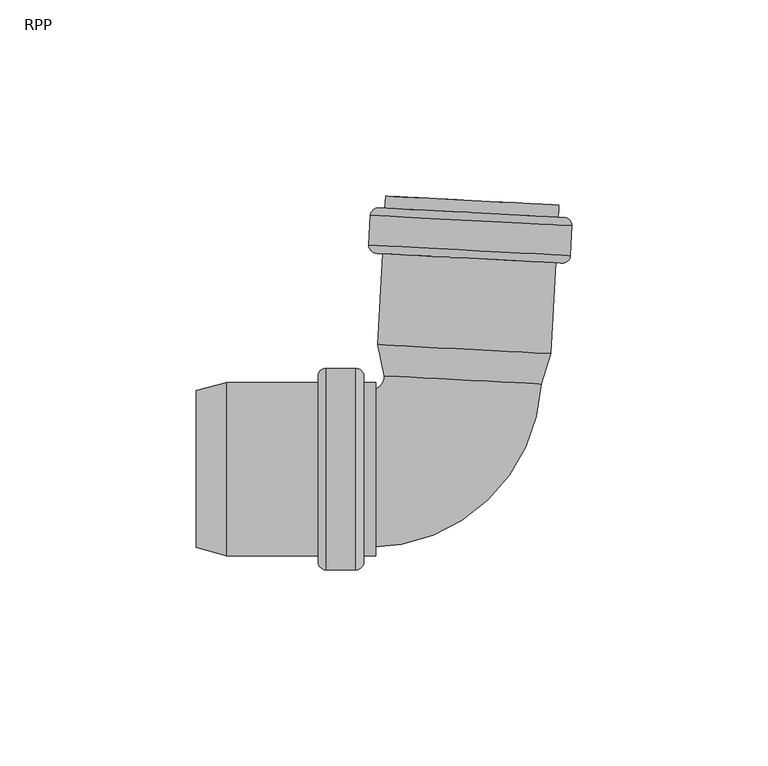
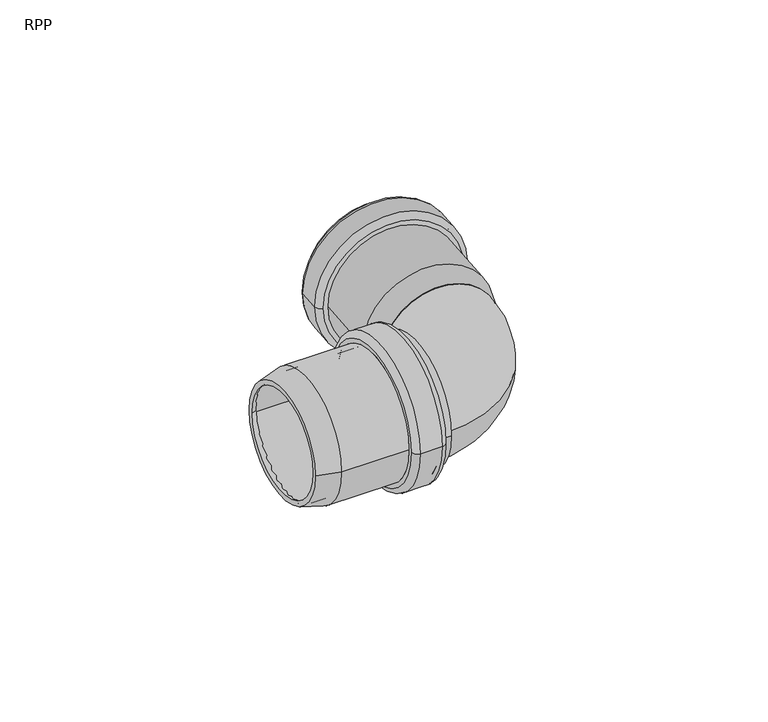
"""IFC4 building model written with IfcOpenShell, lengths in millimetres: pipe fitting geometry, RAUPIANO PLUS Bend : RPP."""

from ifc_helpers import new_model, si_unit, point, frame, origin, place, context, project, spatial, polyline, circle_curve, ellipse_curve, trimmed, source, transform, mapped, element, save
from ifc_brep_helpers import plane_surface, cylinder_surface, revolved_surface, advanced_brep


def rpp_43926e8d(model_context):
    return source(origin(), model_context, "Body", "AdvancedBrep", [
        advanced_brep(
        [(-33.8751496, -20.3, 0.0), (-33.8751496, 20.3, 0.0), (-58.7008684, 20.3, 0.0), (-58.7008684, -20.3, 0.0), (-33.3751496, -23.9, 0.0), (-33.3751496, 23.9, 0.0), (-33.8751496, 23.4, 0.0), (-33.8751496, -23.4, 0.0), (-26.3751496, -23.9, 0.0), (-26.3751496, 23.9, 0.0), (-25.8751496, -23.4, 0.0), (-25.8751496, 23.4, 0.0), (-20.9751496, -20.3, 0.0), (-20.9751496, 20.3, 0.0), (-25.8751496, 20.3, 0.0), (-25.8751496, -20.3, 0.0), (-24.0751496, -22.1, 0.0), (-24.0751496, 22.1, 0.0), (-20.9751496, 22.1, 0.0), (-20.9751496, -22.1, 0.0), (-26.0751496, -25.7, 0.0), (-26.0751496, 25.7, 0.0), (-24.0751496, 23.7, 0.0), (-24.0751496, -23.7, 0.0), (-33.6751496, -25.7, 0.0), (-33.6751496, 25.7, 0.0), (-35.6751496, -23.7, 0.0), (-35.6751496, 23.7, 0.0), (-58.9378429, -22.1, 0.0), (-58.9378429, 22.1, 0.0), (-35.6751496, 22.1, 0.0), (-35.6751496, -22.1, 0.0), (-66.7751496, -20.0, 0.0), (-66.7751496, 20.0, 0.0), (-66.7751496, 18.1365029, 0.0), (-66.7751496, -18.1365029, 0.0)],
        [
            (0, 1, circle_curve(frame((-33.8751496, 0.0, 0.0), z_axis=(1.0, 0.0, 0.0), x_axis=(0.0, 1.0, 0.0)), 20.3)),
            (1, 2),
            (2, 3, circle_curve(frame((-58.7008684, 0.0, 0.0), z_axis=(-1.0, 0.0, 0.0), x_axis=(0.0, 1.0, 0.0)), 20.3)),
            (3, 0),
            (4, 5, circle_curve(frame((-33.3751496, 0.0, 0.0), z_axis=(1.0, 0.0, 0.0), x_axis=(0.0, 1.0, 0.0)), 23.9)),
            (5, 6, circle_curve(frame((-33.3751496, 23.4, 0.0), z_axis=(0.0, 0.0, 1.0), x_axis=(0.0, -1.0, 0.0)), 0.5)),
            (6, 7, circle_curve(frame((-33.8751496, 0.0, 0.0), z_axis=(-1.0, 0.0, 0.0), x_axis=(0.0, 1.0, 0.0)), 23.4)),
            (7, 4, circle_curve(frame((-33.3751496, -23.4, 0.0), z_axis=(0.0, 0.0, 1.0), x_axis=(0.0, 1.0, 0.0)), 0.5)),
            (8, 9, circle_curve(frame((-26.3751496, 0.0, 0.0), z_axis=(1.0, 0.0, 0.0), x_axis=(0.0, 1.0, 0.0)), 23.9)),
            (9, 5),
            (4, 8),
            (10, 11, circle_curve(frame((-25.8751496, 0.0, 0.0), z_axis=(1.0, 0.0, 0.0), x_axis=(0.0, 1.0, 0.0)), 23.4)),
            (11, 9, circle_curve(frame((-26.3751496, 23.4, 0.0), z_axis=(0.0, 0.0, 1.0), x_axis=(0.0, -1.0, 0.0)), 0.5)),
            (8, 10, circle_curve(frame((-26.3751496, -23.4, 0.0), z_axis=(0.0, 0.0, 1.0), x_axis=(0.0, 1.0, 0.0)), 0.5)),
            (12, 13, circle_curve(frame((-20.9751496, 0.0, 0.0), z_axis=(1.0, 0.0, 0.0), x_axis=(0.0, 1.0, 0.0)), 20.3)),
            (13, 14),
            (14, 15, circle_curve(frame((-25.8751496, 0.0, 0.0), z_axis=(-1.0, 0.0, 0.0), x_axis=(0.0, 1.0, 0.0)), 20.3)),
            (15, 12),
            (16, 17, circle_curve(frame((-24.0751496, 0.0, 0.0), z_axis=(1.0, 0.0, 0.0), x_axis=(0.0, 1.0, 0.0)), 22.1)),
            (17, 18),
            (18, 19, circle_curve(frame((-20.9751496, 0.0, 0.0), z_axis=(-1.0, 0.0, 0.0), x_axis=(0.0, 1.0, 0.0)), 22.1)),
            (19, 16),
            (20, 21, circle_curve(frame((-26.0751496, 0.0, 0.0), z_axis=(1.0, 0.0, 0.0), x_axis=(0.0, 1.0, 0.0)), 25.7)),
            (21, 22, circle_curve(frame((-26.0751496, 23.7, 0.0), z_axis=(0.0, 0.0, -1.0), x_axis=(0.0, -1.0, 0.0)), 2.0)),
            (22, 23, circle_curve(frame((-24.0751496, 0.0, 0.0), z_axis=(-1.0, 0.0, 0.0), x_axis=(0.0, 1.0, 0.0)), 23.7)),
            (23, 20, circle_curve(frame((-26.0751496, -23.7, 0.0), z_axis=(0.0, 0.0, -1.0), x_axis=(0.0, 1.0, 0.0)), 2.0)),
            (24, 25, circle_curve(frame((-33.6751496, 0.0, 0.0), z_axis=(1.0, 0.0, 0.0), x_axis=(0.0, 1.0, 0.0)), 25.7)),
            (25, 21),
            (20, 24),
            (26, 27, circle_curve(frame((-35.6751496, 0.0, 0.0), z_axis=(1.0, 0.0, 0.0), x_axis=(0.0, 1.0, 0.0)), 23.7)),
            (27, 25, circle_curve(frame((-33.6751496, 23.7, 0.0), z_axis=(0.0, 0.0, -1.0), x_axis=(0.0, -1.0, 0.0)), 2.0)),
            (24, 26, circle_curve(frame((-33.6751496, -23.7, 0.0), z_axis=(0.0, 0.0, -1.0), x_axis=(0.0, 1.0, 0.0)), 2.0)),
            (28, 29, circle_curve(frame((-58.9378429, 0.0, 0.0), z_axis=(1.0, 0.0, 0.0), x_axis=(0.0, 1.0, 0.0)), 22.1)),
            (29, 30),
            (30, 31, circle_curve(frame((-35.6751496, 0.0, 0.0), z_axis=(-1.0, 0.0, 0.0), x_axis=(0.0, 1.0, 0.0)), 22.1)),
            (31, 28),
            (32, 33, circle_curve(frame((-66.7751496, 0.0, 0.0), z_axis=(1.0, 0.0, 0.0), x_axis=(0.0, 1.0, 0.0)), 20.0)),
            (33, 29),
            (28, 32),
            (2, 34),
            (34, 35, circle_curve(frame((-66.7751496, 0.0, 0.0), z_axis=(-1.0, 0.0, 0.0), x_axis=(0.0, 1.0, 0.0)), 18.1365029)),
            (35, 3),
            (1, 0, circle_curve(frame((-33.8751496, 0.0, 0.0), z_axis=(1.0, 0.0, 0.0), x_axis=(0.0, -1.0, 0.0)), 20.3)),
            (3, 2, circle_curve(frame((-58.7008684, 0.0, 0.0), z_axis=(-1.0, 0.0, 0.0), x_axis=(0.0, -1.0, 0.0)), 20.3)),
            (6, 7, circle_curve(frame((-33.8751496, 0.0, 0.0), z_axis=(1.0, 0.0, 0.0), x_axis=(0.0, -1.0, 0.0)), 23.4)),
            (5, 4, circle_curve(frame((-33.3751496, 0.0, 0.0), z_axis=(1.0, 0.0, 0.0), x_axis=(0.0, -1.0, 0.0)), 23.9)),
            (9, 8, circle_curve(frame((-26.3751496, 0.0, 0.0), z_axis=(1.0, 0.0, 0.0), x_axis=(0.0, -1.0, 0.0)), 23.9)),
            (11, 10, circle_curve(frame((-25.8751496, 0.0, 0.0), z_axis=(1.0, 0.0, 0.0), x_axis=(0.0, -1.0, 0.0)), 23.4)),
            (14, 15, circle_curve(frame((-25.8751496, 0.0, 0.0), z_axis=(1.0, 0.0, 0.0), x_axis=(0.0, -1.0, 0.0)), 20.3)),
            (13, 12, circle_curve(frame((-20.9751496, 0.0, 0.0), z_axis=(1.0, 0.0, 0.0), x_axis=(0.0, -1.0, 0.0)), 20.3)),
            (18, 19, circle_curve(frame((-20.9751496, 0.0, 0.0), z_axis=(1.0, 0.0, 0.0), x_axis=(0.0, -1.0, 0.0)), 22.1)),
            (17, 16, circle_curve(frame((-24.0751496, 0.0, 0.0), z_axis=(1.0, 0.0, 0.0), x_axis=(0.0, -1.0, 0.0)), 22.1)),
            (22, 23, circle_curve(frame((-24.0751496, 0.0, 0.0), z_axis=(1.0, 0.0, 0.0), x_axis=(0.0, -1.0, 0.0)), 23.7)),
            (21, 20, circle_curve(frame((-26.0751496, 0.0, 0.0), z_axis=(1.0, 0.0, 0.0), x_axis=(0.0, -1.0, 0.0)), 25.7)),
            (25, 24, circle_curve(frame((-33.6751496, 0.0, 0.0), z_axis=(1.0, 0.0, 0.0), x_axis=(0.0, -1.0, 0.0)), 25.7)),
            (27, 26, circle_curve(frame((-35.6751496, 0.0, 0.0), z_axis=(1.0, 0.0, 0.0), x_axis=(0.0, -1.0, 0.0)), 23.7)),
            (30, 31, circle_curve(frame((-35.6751496, 0.0, 0.0), z_axis=(1.0, 0.0, 0.0), x_axis=(0.0, -1.0, 0.0)), 22.1)),
            (29, 28, circle_curve(frame((-58.9378429, 0.0, 0.0), z_axis=(1.0, 0.0, 0.0), x_axis=(0.0, -1.0, 0.0)), 22.1)),
            (33, 32, circle_curve(frame((-66.7751496, 0.0, 0.0), z_axis=(1.0, 0.0, 0.0), x_axis=(0.0, -1.0, 0.0)), 20.0)),
            (34, 35, circle_curve(frame((-66.7751496, 0.0, 0.0), z_axis=(1.0, 0.0, 0.0), x_axis=(0.0, -1.0, 0.0)), 18.1365029)),
        ],
        [
            revolved_surface(polyline([(-58.7008684, 20.3, 0.0), (-33.8751496, 20.3, 0.0)]), (-66.7751496, 0.0, 0.0), (-1.0, 0.0, 0.0)),
            revolved_surface(trimmed(ellipse_curve(frame((-33.3751496, 23.4, 0.0), z_axis=(0.0, 0.0, -1.0), x_axis=(0.0, -1.0, 0.0)), 0.5, 0.5), [point((-33.8751496, 23.4, 0.0))], [point((-33.3751496, 23.9, 0.0))], True, "CARTESIAN"), (-66.7751496, 0.0, 0.0), (-1.0, 0.0, 0.0)),
            revolved_surface(polyline([(-33.3751496, 23.9, 0.0), (-26.3751496, 23.9, 0.0)]), (-66.7751496, 0.0, 0.0), (-1.0, 0.0, 0.0)),
            revolved_surface(trimmed(ellipse_curve(frame((-26.3751496, 23.4, 0.0), z_axis=(0.0, 0.0, -1.0), x_axis=(0.0, -1.0, 0.0)), 0.5, 0.5), [point((-26.3751496, 23.9, 0.0))], [point((-25.8751496, 23.4, 0.0))], True, "CARTESIAN"), (-66.7751496, 0.0, 0.0), (-1.0, 0.0, 0.0)),
            revolved_surface(polyline([(-25.8751496, 20.3, 0.0), (-20.9751496, 20.3, 0.0)]), (-66.7751496, 0.0, 0.0), (-1.0, 0.0, 0.0)),
            cylinder_surface(frame((-66.7751496, 0.0, 0.0), z_axis=(-1.0, 0.0, 0.0), x_axis=(0.0, 1.0, 0.0)), 22.1),
            revolved_surface(trimmed(ellipse_curve(frame((-26.0751496, 23.7, 0.0), z_axis=(0.0, 0.0, 1.0), x_axis=(0.0, -1.0, 0.0)), 2.0, 2.0), [point((-24.0751496, 23.7, 0.0))], [point((-26.0751496, 25.7, 0.0))], True, "CARTESIAN"), (-66.7751496, 0.0, 0.0), (-1.0, 0.0, 0.0)),
            cylinder_surface(frame((-66.7751496, 0.0, 0.0), z_axis=(-1.0, 0.0, 0.0), x_axis=(0.0, 1.0, 0.0)), 25.7),
            revolved_surface(trimmed(ellipse_curve(frame((-33.6751496, 23.7, 0.0), z_axis=(0.0, 0.0, 1.0), x_axis=(0.0, -1.0, 0.0)), 2.0, 2.0), [point((-33.6751496, 25.7, 0.0))], [point((-35.6751496, 23.7, 0.0))], True, "CARTESIAN"), (-66.7751496, 0.0, 0.0), (-1.0, 0.0, 0.0)),
            revolved_surface(polyline([(-58.9378429, 22.1, 0.0), (-66.7751496, 20.0, 0.0)]), (-66.7751496, 0.0, 0.0), (-1.0, 0.0, 0.0)),
            revolved_surface(polyline([(-66.7751496, 18.1365029, 0.0), (-58.7008684, 20.3, 0.0)]), (-66.7751496, 0.0, 0.0), (-1.0, 0.0, 0.0)),
            revolved_surface(polyline([(-58.7008684, -20.3, 0.0), (-33.8751496, -20.3, 0.0)]), (-66.7751496, 0.0, 0.0), (-1.0, 0.0, 0.0)),
            plane_surface(frame((-33.8751496, 0.0, 0.0), z_axis=(1.0, 0.0, 0.0), x_axis=(0.0, -1.0, 0.0))),
            revolved_surface(trimmed(ellipse_curve(frame((-33.3751496, -23.4, 0.0), z_axis=(0.0, 0.0, 1.0), x_axis=(0.0, 1.0, 0.0)), 0.5, 0.5), [point((-33.8751496, -23.4, 0.0))], [point((-33.3751496, -23.9, 0.0))], True, "CARTESIAN"), (-66.7751496, 0.0, 0.0), (-1.0, 0.0, 0.0)),
            revolved_surface(polyline([(-33.3751496, -23.9, 0.0), (-26.3751496, -23.9, 0.0)]), (-66.7751496, 0.0, 0.0), (-1.0, 0.0, 0.0)),
            revolved_surface(trimmed(ellipse_curve(frame((-26.3751496, -23.4, 0.0), z_axis=(0.0, 0.0, 1.0), x_axis=(0.0, 1.0, 0.0)), 0.5, 0.5), [point((-26.3751496, -23.9, 0.0))], [point((-25.8751496, -23.4, 0.0))], True, "CARTESIAN"), (-66.7751496, 0.0, 0.0), (-1.0, 0.0, 0.0)),
            plane_surface(frame((-25.8751496, 0.0, 0.0), z_axis=(-1.0, 0.0, 0.0), x_axis=(0.0, -1.0, 0.0))),
            revolved_surface(polyline([(-25.8751496, -20.3, 0.0), (-20.9751496, -20.3, 0.0)]), (-66.7751496, 0.0, 0.0), (-1.0, 0.0, 0.0)),
            plane_surface(frame((-20.9751496, 0.0, 0.0), z_axis=(1.0, 0.0, 0.0), x_axis=(0.0, -1.0, 0.0))),
            cylinder_surface(frame((-66.7751496, 0.0, 0.0), z_axis=(-1.0, 0.0, 0.0), x_axis=(0.0, -1.0, 0.0)), 22.1),
            plane_surface(frame((-24.0751496, 0.0, 0.0), z_axis=(1.0, 0.0, 0.0), x_axis=(0.0, -1.0, 0.0))),
            revolved_surface(trimmed(ellipse_curve(frame((-26.0751496, -23.7, 0.0), z_axis=(0.0, 0.0, -1.0), x_axis=(0.0, 1.0, 0.0)), 2.0, 2.0), [point((-24.0751496, -23.7, 0.0))], [point((-26.0751496, -25.7, 0.0))], True, "CARTESIAN"), (-66.7751496, 0.0, 0.0), (-1.0, 0.0, 0.0)),
            cylinder_surface(frame((-66.7751496, 0.0, 0.0), z_axis=(-1.0, 0.0, 0.0), x_axis=(0.0, -1.0, 0.0)), 25.7),
            revolved_surface(trimmed(ellipse_curve(frame((-33.6751496, -23.7, 0.0), z_axis=(0.0, 0.0, -1.0), x_axis=(0.0, 1.0, 0.0)), 2.0, 2.0), [point((-33.6751496, -25.7, 0.0))], [point((-35.6751496, -23.7, 0.0))], True, "CARTESIAN"), (-66.7751496, 0.0, 0.0), (-1.0, 0.0, 0.0)),
            plane_surface(frame((-35.6751496, 0.0, 0.0), z_axis=(-1.0, 0.0, 0.0), x_axis=(0.0, -1.0, 0.0))),
            revolved_surface(polyline([(-58.9378429, -22.1, 0.0), (-66.7751496, -20.0, 0.0)]), (-66.7751496, 0.0, 0.0), (-1.0, 0.0, 0.0)),
            plane_surface(frame((-66.7751496, 0.0, 0.0), z_axis=(-1.0, 0.0, 0.0), x_axis=(0.0, -1.0, 0.0))),
            revolved_surface(polyline([(-66.7751496, -18.1365029, 0.0), (-58.7008684, -20.3, 0.0)]), (-66.7751496, 0.0, 0.0), (-1.0, 0.0, 0.0)),
        ],
        [
            (0, [[1, 2, 3, 4]]),
            (1, [[5, 6, 7, 8]]),
            (2, [[9, 10, -5, 11]]),
            (3, [[12, 13, -9, 14]]),
            (4, [[15, 16, 17, 18]]),
            (5, [[19, 20, 21, 22]]),
            (6, [[23, 24, 25, 26]]),
            (7, [[27, 28, -23, 29]]),
            (8, [[30, 31, -27, 32]]),
            (5, [[33, 34, 35, 36]]),
            (9, [[37, 38, -33, 39]]),
            (10, [[-3, 40, 41, 42]]),
            (11, [[43, -4, 44, -2]]),
            (12, [[45, -7], [-43, -1]]),
            (13, [[46, -8, -45, -6]]),
            (14, [[47, -11, -46, -10]]),
            (15, [[48, -14, -47, -13]]),
            (16, [[-48, -12], [49, -17]]),
            (17, [[50, -18, -49, -16]]),
            (18, [[51, -21], [-50, -15]]),
            (19, [[52, -22, -51, -20]]),
            (20, [[53, -25], [-52, -19]]),
            (21, [[54, -26, -53, -24]]),
            (22, [[55, -29, -54, -28]]),
            (23, [[56, -32, -55, -31]]),
            (24, [[-56, -30], [57, -35]]),
            (19, [[58, -36, -57, -34]]),
            (25, [[59, -39, -58, -38]]),
            (26, [[-59, -37], [60, -41]]),
            (27, [[-44, -42, -60, -40]]),
        ],
    ),
        advanced_brep(
        [(19.3036067, 21.7947458, 0.0), (-16.9196882, 23.6931283, 0.0), (-18.6576451, 31.8695726, 0.0), (21.886714, 29.7447328, 0.0), (23.6718449, 29.4138784, 0.0), (-20.4675805, 31.7271276, 0.0), (-18.7806315, 23.7906562, 0.0), (21.1645499, 21.6972179, 0.0), (24.8893202, 52.6446909, 0.0), (-19.2501052, 54.9579402, 0.0), (28.9868117, 62.043125, 0.0), (-22.3427464, 64.7331932, 0.0), (-22.7404997, 57.1436087, 0.0), (28.5890584, 54.4535406, 0.0), (25.6586587, 67.3245451, 0.0), (-18.4807667, 69.6377944, 0.0), (-18.6430082, 66.5420428, 0.0), (25.4964173, 64.2287936, 0.0), (23.6046794, 62.5254651, 0.0), (-16.9396797, 64.6503049, 0.0), (-16.6832335, 69.5435897, 0.0), (23.8611256, 67.4187498, 0.0), (26.8072261, 54.8473342, 0.0), (-20.9272657, 57.3489929, 0.0), (-20.560914, 64.3393996, 0.0), (27.1735777, 61.8377409, 0.0), (-17.3583674, 56.6612687, 0.0), (23.1859917, 54.5364288, 0.0), (-20.8479125, 55.0416777, 0.0), (26.4871274, 52.5609534, 0.0), (27.0942245, 64.145056, 0.0), (-20.2408154, 66.6257803, 0.0), (-20.0354313, 64.8125464, 0.0), (26.700431, 62.3632236, 0.0), (26.2817433, 54.3741874, 0.0), (-20.4541189, 56.8235101, 0.0)],
        [
            (0, 1, circle_curve(frame((1.1919592, 22.7439371, 0.0), z_axis=(-0.05233595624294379, -0.9986295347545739, 0.0), x_axis=(-0.9986295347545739, 0.05233595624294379, 0.0)), 18.1365029)),
            (1, 2),
            (2, 3, circle_curve(frame((1.6145345, 30.8071527, 0.0), z_axis=(0.05233595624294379, 0.9986295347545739, 0.0), x_axis=(-0.9986295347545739, 0.05233595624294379, 0.0)), 20.3)),
            (3, 0),
            (4, 5, circle_curve(frame((1.6021322, 30.570503, 0.0), z_axis=(-0.05233595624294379, -0.9986295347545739, 0.0), x_axis=(-0.9986295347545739, 0.05233595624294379, 0.0)), 22.1)),
            (5, 6),
            (6, 7, circle_curve(frame((1.1919592, 22.7439371, 0.0), z_axis=(0.05233595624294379, 0.9986295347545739, 0.0), x_axis=(-0.9986295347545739, 0.05233595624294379, 0.0)), 20.0)),
            (7, 4),
            (8, 9, circle_curve(frame((2.8196075, 53.8013156, 0.0), z_axis=(-0.05233595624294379, -0.9986295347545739, 0.0), x_axis=(-0.9986295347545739, 0.05233595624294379, 0.0)), 22.1)),
            (9, 5),
            (4, 8),
            (10, 11, circle_curve(frame((3.3220327, 63.3881591, 0.0), z_axis=(-0.05233595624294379, -0.9986295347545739, 0.0), x_axis=(-0.9986295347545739, 0.05233595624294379, 0.0)), 25.7)),
            (11, 12),
            (12, 13, circle_curve(frame((2.9242794, 55.7985747, 0.0), z_axis=(0.05233595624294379, 0.9986295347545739, 0.0), x_axis=(-0.9986295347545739, 0.05233595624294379, 0.0)), 25.7)),
            (13, 10),
            (14, 15, circle_curve(frame((3.588946, 68.4811697, 0.0), z_axis=(-0.05233595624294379, -0.9986295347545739, 0.0), x_axis=(-0.9986295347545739, 0.05233595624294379, 0.0)), 22.1)),
            (15, 16),
            (16, 17, circle_curve(frame((3.4267046, 65.3854182, 0.0), z_axis=(0.05233595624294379, 0.9986295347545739, 0.0), x_axis=(-0.9986295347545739, 0.05233595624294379, 0.0)), 22.1)),
            (17, 14),
            (18, 19, circle_curve(frame((3.3324998, 63.587885, 0.0), z_axis=(-0.05233595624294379, -0.9986295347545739, 0.0), x_axis=(-0.9986295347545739, 0.05233595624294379, 0.0)), 20.3)),
            (19, 20),
            (20, 21, circle_curve(frame((3.588946, 68.4811697, 0.0), z_axis=(0.05233595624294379, 0.9986295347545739, 0.0), x_axis=(-0.9986295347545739, 0.05233595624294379, 0.0)), 20.3)),
            (21, 18),
            (22, 23, circle_curve(frame((2.9399802, 56.0981635, 0.0), z_axis=(-0.05233595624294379, -0.9986295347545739, 0.0), x_axis=(-0.9986295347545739, 0.05233595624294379, 0.0)), 23.9)),
            (23, 24),
            (24, 25, circle_curve(frame((3.3063319, 63.0885703, 0.0), z_axis=(0.05233595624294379, 0.9986295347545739, 0.0), x_axis=(-0.9986295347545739, 0.05233595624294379, 0.0)), 23.9)),
            (25, 22),
            (2, 26),
            (26, 27, circle_curve(frame((2.9138122, 55.5988487, 0.0), z_axis=(0.05233595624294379, 0.9986295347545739, 0.0), x_axis=(-0.9986295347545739, 0.05233595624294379, 0.0)), 20.3)),
            (27, 3),
            (1, 0, circle_curve(frame((1.1919592, 22.7439371, 0.0), z_axis=(-0.05233595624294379, -0.9986295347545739, 0.0), x_axis=(0.9986295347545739, -0.05233595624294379, 0.0)), 18.1365029)),
            (3, 2, circle_curve(frame((1.6145345, 30.8071527, 0.0), z_axis=(0.05233595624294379, 0.9986295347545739, 0.0), x_axis=(0.9986295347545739, -0.05233595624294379, 0.0)), 20.3)),
            (6, 7, circle_curve(frame((1.1919592, 22.7439371, 0.0), z_axis=(-0.05233595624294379, -0.9986295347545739, 0.0), x_axis=(0.9986295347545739, -0.05233595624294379, 0.0)), 20.0)),
            (5, 4, circle_curve(frame((1.6021322, 30.570503, 0.0), z_axis=(-0.05233595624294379, -0.9986295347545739, 0.0), x_axis=(0.9986295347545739, -0.05233595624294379, 0.0)), 22.1)),
            (9, 8, circle_curve(frame((2.8196075, 53.8013156, 0.0), z_axis=(-0.05233595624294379, -0.9986295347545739, 0.0), x_axis=(0.9986295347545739, -0.05233595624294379, 0.0)), 22.1)),
            (28, 29, circle_curve(frame((2.8196075, 53.8013156, 0.0), z_axis=(-0.05233595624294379, -0.9986295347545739, 0.0), x_axis=(0.9986295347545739, -0.05233595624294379, 0.0)), 23.7)),
            (29, 28, circle_curve(frame((2.8196075, 53.8013156, 0.0), z_axis=(-0.05233595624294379, -0.9986295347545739, 0.0), x_axis=(-0.9986295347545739, 0.05233595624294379, 0.0)), 23.7)),
            (11, 10, circle_curve(frame((3.3220327, 63.3881591, 0.0), z_axis=(-0.05233595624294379, -0.9986295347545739, 0.0), x_axis=(0.9986295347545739, -0.05233595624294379, 0.0)), 25.7)),
            (13, 12, circle_curve(frame((2.9242794, 55.7985747, 0.0), z_axis=(0.05233595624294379, 0.9986295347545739, 0.0), x_axis=(0.9986295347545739, -0.05233595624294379, 0.0)), 25.7)),
            (30, 31, circle_curve(frame((3.4267046, 65.3854182, 0.0), z_axis=(0.05233595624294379, 0.9986295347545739, 0.0), x_axis=(0.9986295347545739, -0.05233595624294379, 0.0)), 23.7)),
            (31, 30, circle_curve(frame((3.4267046, 65.3854182, 0.0), z_axis=(0.05233595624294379, 0.9986295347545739, 0.0), x_axis=(-0.9986295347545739, 0.05233595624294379, 0.0)), 23.7)),
            (16, 17, circle_curve(frame((3.4267046, 65.3854182, 0.0), z_axis=(-0.05233595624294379, -0.9986295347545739, 0.0), x_axis=(0.9986295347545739, -0.05233595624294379, 0.0)), 22.1)),
            (15, 14, circle_curve(frame((3.588946, 68.4811697, 0.0), z_axis=(-0.05233595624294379, -0.9986295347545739, 0.0), x_axis=(0.9986295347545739, -0.05233595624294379, 0.0)), 22.1)),
            (20, 21, circle_curve(frame((3.588946, 68.4811697, 0.0), z_axis=(-0.05233595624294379, -0.9986295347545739, 0.0), x_axis=(0.9986295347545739, -0.05233595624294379, 0.0)), 20.3)),
            (19, 18, circle_curve(frame((3.3324998, 63.587885, 0.0), z_axis=(-0.05233595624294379, -0.9986295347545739, 0.0), x_axis=(0.9986295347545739, -0.05233595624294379, 0.0)), 20.3)),
            (32, 33, circle_curve(frame((3.3324998, 63.587885, 0.0), z_axis=(-0.05233595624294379, -0.9986295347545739, 0.0), x_axis=(0.9986295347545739, -0.05233595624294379, 0.0)), 23.4)),
            (33, 32, circle_curve(frame((3.3324998, 63.587885, 0.0), z_axis=(-0.05233595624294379, -0.9986295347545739, 0.0), x_axis=(-0.9986295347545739, 0.05233595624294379, 0.0)), 23.4)),
            (23, 22, circle_curve(frame((2.9399802, 56.0981635, 0.0), z_axis=(-0.05233595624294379, -0.9986295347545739, 0.0), x_axis=(0.9986295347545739, -0.05233595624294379, 0.0)), 23.9)),
            (25, 24, circle_curve(frame((3.3063319, 63.0885703, 0.0), z_axis=(0.05233595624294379, 0.9986295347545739, 0.0), x_axis=(0.9986295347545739, -0.05233595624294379, 0.0)), 23.9)),
            (34, 35, circle_curve(frame((2.9138122, 55.5988487, 0.0), z_axis=(0.05233595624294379, 0.9986295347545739, 0.0), x_axis=(0.9986295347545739, -0.05233595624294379, 0.0)), 23.4)),
            (35, 34, circle_curve(frame((2.9138122, 55.5988487, 0.0), z_axis=(0.05233595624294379, 0.9986295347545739, 0.0), x_axis=(-0.9986295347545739, 0.05233595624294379, 0.0)), 23.4)),
            (26, 27, circle_curve(frame((2.9138122, 55.5988487, 0.0), z_axis=(-0.05233595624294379, -0.9986295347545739, 0.0), x_axis=(0.9986295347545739, -0.05233595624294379, 0.0)), 20.3)),
            (12, 28, circle_curve(frame((-20.7432406, 57.0389368, 0.0), z_axis=(0.0, 0.0, 1.0), x_axis=(0.9986295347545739, -0.05233595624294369, 0.0)), 2.0)),
            (29, 13, circle_curve(frame((26.5917994, 54.5582125, 0.0), z_axis=(0.0, 0.0, 1.0), x_axis=(-0.9986295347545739, 0.0523359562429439, 0.0)), 2.0)),
            (31, 11, circle_curve(frame((-20.3454873, 64.6285213, 0.0), z_axis=(0.0, 0.0, 1.0), x_axis=(0.9986295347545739, -0.05233595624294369, 0.0)), 2.0)),
            (10, 30, circle_curve(frame((26.9895526, 62.147797, 0.0), z_axis=(0.0, 0.0, 1.0), x_axis=(-0.9986295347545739, 0.0523359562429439, 0.0)), 2.0)),
            (24, 32, circle_curve(frame((-20.0615992, 64.3132316, 0.0), z_axis=(0.0, 0.0, -1.0), x_axis=(0.9986295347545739, -0.05233595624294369, 0.0)), 0.5)),
            (33, 25, circle_curve(frame((26.674263, 61.8639089, 0.0), z_axis=(0.0, 0.0, -1.0), x_axis=(-0.9986295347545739, 0.0523359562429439, 0.0)), 0.5)),
            (35, 23, circle_curve(frame((-20.4279509, 57.3228249, 0.0), z_axis=(0.0, 0.0, -1.0), x_axis=(0.9986295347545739, -0.05233595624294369, 0.0)), 0.5)),
            (22, 34, circle_curve(frame((26.3079113, 54.8735021, 0.0), z_axis=(0.0, 0.0, -1.0), x_axis=(-0.9986295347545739, 0.0523359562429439, 0.0)), 0.5)),
        ],
        [
            revolved_surface(polyline([(-18.6576451, 31.8695726, 0.0), (-16.9196882, 23.6931283, 0.0)]), (1.1919592, 22.7439371, 0.0), (0.05233595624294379, 0.9986295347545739, 0.0)),
            revolved_surface(polyline([(-18.7806315, 23.7906562, 0.0), (-20.4675805, 31.7271276, 0.0)]), (1.1919592, 22.7439371, 0.0), (0.05233595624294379, 0.9986295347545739, 0.0)),
            cylinder_surface(frame((1.1919592, 22.7439371, 0.0), z_axis=(0.05233595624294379, 0.9986295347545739, 0.0), x_axis=(-0.9986295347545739, 0.05233595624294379, 0.0)), 22.1),
            cylinder_surface(frame((1.1919592, 22.7439371, 0.0), z_axis=(0.05233595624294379, 0.9986295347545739, 0.0), x_axis=(-0.9986295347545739, 0.05233595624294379, 0.0)), 25.7),
            revolved_surface(polyline([(-16.68323355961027, 69.54358970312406, 0.0), (-16.93967974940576, 64.65030490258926, 0.0)]), (1.1919592, 22.7439371, 0.0), (0.05233595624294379, 0.9986295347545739, 0.0)),
            revolved_surface(polyline([(-20.560914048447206, 64.33939965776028, 0.0), (-20.92726574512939, 57.3489928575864, 0.0)]), (1.1919592, 22.7439371, 0.0), (0.05233595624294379, 0.9986295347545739, 0.0)),
            revolved_surface(polyline([(-17.358367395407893, 56.66126869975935, 0.0), (-18.657645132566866, 31.86957260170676, 0.0)]), (1.1919592, 22.7439371, 0.0), (0.05233595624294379, 0.9986295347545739, 0.0)),
            revolved_surface(polyline([(21.886714, 29.7447328, 0.0), (19.3036067, 21.7947458, 0.0)]), (1.1919592, 22.7439371, 0.0), (0.05233595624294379, 0.9986295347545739, 0.0)),
            plane_surface(frame((1.1919592, 22.7439371, 0.0), z_axis=(-0.05233595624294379, -0.9986295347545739, 0.0), x_axis=(0.9986295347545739, -0.05233595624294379, 0.0))),
            revolved_surface(polyline([(21.1645499, 21.6972179, 0.0), (23.6718449, 29.4138784, 0.0)]), (1.1919592, 22.7439371, 0.0), (0.05233595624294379, 0.9986295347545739, 0.0)),
            cylinder_surface(frame((1.1919592, 22.7439371, 0.0), z_axis=(0.05233595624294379, 0.9986295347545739, 0.0), x_axis=(0.9986295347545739, -0.05233595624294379, 0.0)), 22.1),
            plane_surface(frame((2.8196075, 53.8013156, 0.0), z_axis=(-0.05233595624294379, -0.9986295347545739, 0.0), x_axis=(0.9986295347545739, -0.05233595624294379, 0.0))),
            cylinder_surface(frame((1.1919592, 22.7439371, 0.0), z_axis=(0.05233595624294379, 0.9986295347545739, 0.0), x_axis=(0.9986295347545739, -0.05233595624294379, 0.0)), 25.7),
            plane_surface(frame((3.4267046, 65.3854182, 0.0), z_axis=(0.05233595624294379, 0.9986295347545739, 0.0), x_axis=(0.9986295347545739, -0.05233595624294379, 0.0))),
            plane_surface(frame((3.588946, 68.4811697, 0.0), z_axis=(0.05233595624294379, 0.9986295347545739, 0.0), x_axis=(0.9986295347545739, -0.05233595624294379, 0.0))),
            revolved_surface(polyline([(23.861125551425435, 67.41874987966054, 0.0), (23.604679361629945, 62.52546507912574, 0.0)]), (1.1919592, 22.7439371, 0.0), (0.05233595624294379, 0.9986295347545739, 0.0)),
            plane_surface(frame((3.3324998, 63.587885, 0.0), z_axis=(-0.05233595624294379, -0.9986295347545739, 0.0), x_axis=(0.9986295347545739, -0.05233595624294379, 0.0))),
            revolved_surface(polyline([(27.173577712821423, 61.83774094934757, 0.0), (26.80722601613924, 54.84733414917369, 0.0)]), (1.1919592, 22.7439371, 0.0), (0.05233595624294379, 0.9986295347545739, 0.0)),
            plane_surface(frame((2.9138122, 55.5988487, 0.0), z_axis=(0.05233595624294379, 0.9986295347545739, 0.0), x_axis=(0.9986295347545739, -0.05233595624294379, 0.0))),
            revolved_surface(polyline([(23.18599171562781, 54.53642887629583, 0.0), (21.886713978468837, 29.744732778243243, 0.0)]), (1.1919592, 22.7439371, 0.0), (0.05233595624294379, 0.9986295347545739, 0.0)),
            revolved_surface(trimmed(ellipse_curve(frame((-20.7432406, 57.0389368, 0.0), z_axis=(0.0, 0.0, -1.0), x_axis=(0.9986295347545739, -0.05233595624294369, 0.0)), 2.0, 2.0), [point((-20.8479125, 55.0416777, 0.0))], [point((-22.7404997, 57.1436087, 0.0))], True, "CARTESIAN"), (1.1919592, 22.7439371, 0.0), (0.05233595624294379, 0.9986295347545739, 0.0)),
            revolved_surface(trimmed(ellipse_curve(frame((-20.3454873, 64.6285213, 0.0), z_axis=(0.0, 0.0, -1.0), x_axis=(0.9986295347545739, -0.05233595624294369, 0.0)), 2.0, 2.0), [point((-22.3427464, 64.7331932, 0.0))], [point((-20.2408154, 66.6257803, 0.0))], True, "CARTESIAN"), (1.1919592, 22.7439371, 0.0), (0.05233595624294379, 0.9986295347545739, 0.0)),
            revolved_surface(trimmed(ellipse_curve(frame((-20.0615992, 64.3132316, 0.0), z_axis=(0.0, 0.0, 1.0), x_axis=(0.9986295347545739, -0.05233595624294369, 0.0)), 0.5, 0.5), [point((-20.0354313, 64.8125464, 0.0))], [point((-20.560914, 64.3393996, 0.0))], True, "CARTESIAN"), (1.1919592, 22.7439371, 0.0), (0.05233595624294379, 0.9986295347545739, 0.0)),
            revolved_surface(trimmed(ellipse_curve(frame((-20.4279509, 57.3228249, 0.0), z_axis=(0.0, 0.0, 1.0), x_axis=(0.9986295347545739, -0.05233595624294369, 0.0)), 0.5, 0.5), [point((-20.9272657, 57.3489929, 0.0))], [point((-20.4541189, 56.8235101, 0.0))], True, "CARTESIAN"), (1.1919592, 22.7439371, 0.0), (0.05233595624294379, 0.9986295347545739, 0.0)),
            revolved_surface(trimmed(ellipse_curve(frame((26.5917994, 54.5582125, 0.0), z_axis=(0.0, 0.0, 1.0), x_axis=(-0.9986295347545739, 0.052335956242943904, 0.0)), 2.0, 2.0), [point((26.4871274, 52.5609534, 0.0))], [point((28.5890584, 54.4535406, 0.0))], True, "CARTESIAN"), (1.1919592, 22.7439371, 0.0), (0.05233595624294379, 0.9986295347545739, 0.0)),
            revolved_surface(trimmed(ellipse_curve(frame((26.9895526, 62.147797, 0.0), z_axis=(0.0, 0.0, 1.0), x_axis=(-0.9986295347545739, 0.052335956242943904, 0.0)), 2.0, 2.0), [point((28.9868117, 62.043125, 0.0))], [point((27.0942245, 64.145056, 0.0))], True, "CARTESIAN"), (1.1919592, 22.7439371, 0.0), (0.05233595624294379, 0.9986295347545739, 0.0)),
            revolved_surface(trimmed(ellipse_curve(frame((26.674263, 61.8639089, 0.0), z_axis=(0.0, 0.0, -1.0), x_axis=(-0.9986295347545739, 0.052335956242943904, 0.0)), 0.5, 0.5), [point((26.700431, 62.3632236, 0.0))], [point((27.1735777, 61.8377409, 0.0))], True, "CARTESIAN"), (1.1919592, 22.7439371, 0.0), (0.05233595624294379, 0.9986295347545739, 0.0)),
            revolved_surface(trimmed(ellipse_curve(frame((26.3079113, 54.8735021, 0.0), z_axis=(0.0, 0.0, -1.0), x_axis=(-0.9986295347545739, 0.052335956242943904, 0.0)), 0.5, 0.5), [point((26.8072261, 54.8473342, 0.0))], [point((26.2817433, 54.3741874, 0.0))], True, "CARTESIAN"), (1.1919592, 22.7439371, 0.0), (0.05233595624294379, 0.9986295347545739, 0.0)),
        ],
        [
            (0, [[1, 2, 3, 4]]),
            (1, [[5, 6, 7, 8]]),
            (2, [[9, 10, -5, 11]]),
            (3, [[12, 13, 14, 15]]),
            (2, [[16, 17, 18, 19]]),
            (4, [[20, 21, 22, 23]]),
            (5, [[24, 25, 26, 27]]),
            (6, [[-3, 28, 29, 30]]),
            (7, [[31, -4, 32, -2]]),
            (8, [[33, -7], [-31, -1]]),
            (9, [[34, -8, -33, -6]]),
            (10, [[35, -11, -34, -10]]),
            (11, [[36, 37], [-35, -9]]),
            (12, [[38, -15, 39, -13]]),
            (13, [[40, 41], [42, -18]]),
            (10, [[43, -19, -42, -17]]),
            (14, [[-43, -16], [44, -22]]),
            (15, [[45, -23, -44, -21]]),
            (16, [[46, 47], [-45, -20]]),
            (17, [[48, -27, 49, -25]]),
            (18, [[50, 51], [52, -29]]),
            (19, [[-32, -30, -52, -28]]),
            (20, [[-14, 53, -37, 54]]),
            (21, [[-41, 55, -12, 56]]),
            (22, [[-26, 57, -47, 58]]),
            (23, [[-51, 59, -24, 60]]),
            (24, [[-39, -54, -36, -53]]),
            (25, [[-40, -56, -38, -55]]),
            (26, [[-49, -58, -46, -57]]),
            (27, [[-50, -60, -48, -59]]),
        ],
    ),
        advanced_brep(
        [(-22.7751496, 18.2, 0.0), (-22.7751496, -18.2, 0.0), (-66.7751496, -18.2, 0.0), (-66.7751496, 18.2, 0.0), (-63.0430988, 20.0, 0.0), (-63.0430988, -20.0, 0.0), (-22.7751496, -20.0, 0.0), (-22.7751496, 20.0, 0.0), (-66.7751496, 19.0, 0.0), (-66.7751496, -19.0, 0.0)],
        [
            (0, 1, circle_curve(frame((-22.7751496, 0.0, 0.0), z_axis=(1.0, 0.0, 0.0), x_axis=(0.0, -1.0, 0.0)), 18.2)),
            (1, 2),
            (2, 3, circle_curve(frame((-66.7751496, 0.0, 0.0), z_axis=(-1.0, 0.0, 0.0), x_axis=(0.0, -1.0, 0.0)), 18.2)),
            (3, 0),
            (4, 5, circle_curve(frame((-63.0430988, 0.0, 0.0), z_axis=(1.0, 0.0, 0.0), x_axis=(0.0, -1.0, 0.0)), 20.0)),
            (5, 6),
            (6, 7, circle_curve(frame((-22.7751496, 0.0, 0.0), z_axis=(-1.0, 0.0, 0.0), x_axis=(0.0, -1.0, 0.0)), 20.0)),
            (7, 4),
            (8, 9, circle_curve(frame((-66.7751496, 0.0, 0.0), z_axis=(1.0, 0.0, 0.0), x_axis=(0.0, -1.0, 0.0)), 19.0)),
            (9, 5),
            (4, 8),
            (1, 0, circle_curve(frame((-22.7751496, 0.0, 0.0), z_axis=(1.0, 0.0, 0.0), x_axis=(0.0, 1.0, 0.0)), 18.2)),
            (3, 2, circle_curve(frame((-66.7751496, 0.0, 0.0), z_axis=(-1.0, 0.0, 0.0), x_axis=(0.0, 1.0, 0.0)), 18.2)),
            (6, 7, circle_curve(frame((-22.7751496, 0.0, 0.0), z_axis=(1.0, 0.0, 0.0), x_axis=(0.0, 1.0, 0.0)), 20.0)),
            (5, 4, circle_curve(frame((-63.0430988, 0.0, 0.0), z_axis=(1.0, 0.0, 0.0), x_axis=(0.0, 1.0, 0.0)), 20.0)),
            (9, 8, circle_curve(frame((-66.7751496, 0.0, 0.0), z_axis=(1.0, 0.0, 0.0), x_axis=(0.0, 1.0, 0.0)), 19.0)),
        ],
        [
            revolved_surface(polyline([(-66.7751496, -18.2, 0.0), (-22.7751496, -18.2, 0.0)]), (-22.7751496, 0.0, 0.0), (-1.0, 0.0, 0.0)),
            cylinder_surface(frame((-22.7751496, 0.0, 0.0), z_axis=(-1.0, 0.0, 0.0), x_axis=(0.0, -1.0, 0.0)), 20.0),
            revolved_surface(polyline([(-63.0430988, -20.0, 0.0), (-66.7751496, -19.0, 0.0)]), (-22.7751496, 0.0, 0.0), (-1.0, 0.0, 0.0)),
            revolved_surface(polyline([(-66.7751496, 18.2, 0.0), (-22.7751496, 18.2, 0.0)]), (-22.7751496, 0.0, 0.0), (-1.0, 0.0, 0.0)),
            plane_surface(frame((-22.7751496, 0.0, 0.0), z_axis=(1.0, 0.0, 0.0), x_axis=(0.0, 1.0, 0.0))),
            cylinder_surface(frame((-22.7751496, 0.0, 0.0), z_axis=(-1.0, 0.0, 0.0), x_axis=(0.0, 1.0, 0.0)), 20.0),
            revolved_surface(polyline([(-63.0430988, 20.0, 0.0), (-66.7751496, 19.0, 0.0)]), (-22.7751496, 0.0, 0.0), (-1.0, 0.0, 0.0)),
            plane_surface(frame((-66.7751496, 0.0, 0.0), z_axis=(-1.0, 0.0, 0.0), x_axis=(0.0, 1.0, 0.0))),
        ],
        [
            (0, [[1, 2, 3, 4]]),
            (1, [[5, 6, 7, 8]]),
            (2, [[9, 10, -5, 11]]),
            (3, [[12, -4, 13, -2]]),
            (4, [[14, -7], [-12, -1]]),
            (5, [[15, -8, -14, -6]]),
            (6, [[16, -11, -15, -10]]),
            (7, [[-16, -9], [-13, -3]]),
        ],
    ),
        advanced_brep(
        [(-22.7751496, -20.0, 0.0), (-22.7751496, 20.0, 0.0), (-22.7751496, -18.2, 0.0), (-22.7751496, 18.2, 0.0), (21.1645499, 21.6972179, 0.0), (-18.7806315, 23.7906562, 0.0), (19.3670168, 21.7914226, 0.0), (-16.9830983, 23.6964515, 0.0)],
        [
            (0, 1, circle_curve(frame((-22.7751496, 0.0, 0.0), z_axis=(-1.0, 0.0, 0.0), x_axis=(0.0, 1.0, 0.0)), 20.0)),
            (1, 0, circle_curve(frame((-22.7751496, 0.0, 0.0), z_axis=(-1.0, 0.0, 0.0), x_axis=(0.0, 1.0, 0.0)), 20.0)),
            (2, 3, circle_curve(frame((-22.7751496, 0.0, 0.0), z_axis=(1.0, 0.0, 0.0), x_axis=(0.0, 1.0, 0.0)), 18.2)),
            (3, 2, circle_curve(frame((-22.7751496, 0.0, 0.0), z_axis=(1.0, 0.0, 0.0), x_axis=(0.0, 1.0, 0.0)), 18.2)),
            (4, 5, circle_curve(frame((1.1919592, 22.7439371, 0.0), z_axis=(0.05233595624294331, 0.9986295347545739, 0.0), x_axis=(-0.9986295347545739, 0.05233595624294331, 0.0)), 20.0)),
            (5, 4, circle_curve(frame((1.1919592, 22.7439371, 0.0), z_axis=(0.05233595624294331, 0.9986295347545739, 0.0), x_axis=(-0.9986295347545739, 0.05233595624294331, 0.0)), 20.0)),
            (6, 7, circle_curve(frame((1.1919592, 22.7439371, 0.0), z_axis=(-0.05233595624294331, -0.9986295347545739, 0.0), x_axis=(-0.9986295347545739, 0.05233595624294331, 0.0)), 18.2)),
            (7, 6, circle_curve(frame((1.1919592, 22.7439371, 0.0), z_axis=(-0.05233595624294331, -0.9986295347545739, 0.0), x_axis=(-0.9986295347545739, 0.05233595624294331, 0.0)), 18.2)),
            (7, 3, circle_curve(frame((-22.7751496, 24.0, 0.0), z_axis=(0.0, 0.0, -1.0), x_axis=(0.0, -1.0, 0.0)), 5.8)),
            (2, 6, circle_curve(frame((-22.7751496, 24.0, 0.0), z_axis=(0.0, 0.0, 1.0), x_axis=(0.0, -1.0, 0.0)), 42.2)),
            (5, 1, circle_curve(frame((-22.7751496, 24.0, 0.0), z_axis=(0.0, 0.0, -1.0), x_axis=(0.0, -1.0, 0.0)), 4.0)),
            (0, 4, circle_curve(frame((-22.7751496, 24.0, 0.0), z_axis=(0.0, 0.0, 1.0), x_axis=(0.0, -1.0, 0.0)), 44.0)),
        ],
        [
            plane_surface(frame((-22.7751496, 0.0, 0.0), z_axis=(-1.0, 0.0, 0.0), x_axis=(0.0, 0.0, 1.0))),
            plane_surface(frame((1.1919592, 22.7439371, 0.0), z_axis=(0.05233595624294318, 0.9986295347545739, 0.0), x_axis=(0.0, 0.0, 1.0))),
            revolved_surface(trimmed(ellipse_curve(frame((-22.7751496, 0.0, 0.0), z_axis=(1.0, 0.0, 0.0), x_axis=(0.0, 1.0, 0.0)), 18.2, 18.2), [point((-22.7751496, -18.2, 0.0))], [point((-22.7751496, 18.2, 0.0))], True, "CARTESIAN"), (-22.7751496, 24.0, 0.0), (0.0, 0.0, 1.0)),
            revolved_surface(trimmed(ellipse_curve(frame((-22.7751496, 0.0, 0.0), z_axis=(1.0, 0.0, 0.0), x_axis=(0.0, 1.0, 0.0)), 18.2, 18.2), [point((-22.7751496, 18.2, 0.0))], [point((-22.7751496, -18.2, 0.0))], True, "CARTESIAN"), (-22.7751496, 24.0, 0.0), (0.0, 0.0, 1.0)),
            revolved_surface(trimmed(ellipse_curve(frame((-22.7751496, 0.0, 0.0), z_axis=(-1.0, 0.0, 0.0), x_axis=(0.0, 1.0, 0.0)), 20.0, 20.0), [point((-22.7751496, -20.0, 0.0))], [point((-22.7751496, 20.0, 0.0))], True, "CARTESIAN"), (-22.7751496, 24.0, 0.0), (0.0, 0.0, 1.0)),
            revolved_surface(trimmed(ellipse_curve(frame((-22.7751496, 0.0, 0.0), z_axis=(-1.0, 0.0, 0.0), x_axis=(0.0, 1.0, 0.0)), 20.0, 20.0), [point((-22.7751496, 20.0, 0.0))], [point((-22.7751496, -20.0, 0.0))], True, "CARTESIAN"), (-22.7751496, 24.0, 0.0), (0.0, 0.0, 1.0)),
        ],
        [
            (0, [[1, 2], [3, 4]]),
            (1, [[5, 6], [7, 8]]),
            (2, [[9, -3, 10, -8]]),
            (3, [[-10, -4, -9, -7]]),
            (4, [[11, -1, 12, -6]]),
            (5, [[-12, -2, -11, -5]]),
        ],
    ),
    ])


if __name__ == "__main__":
    model = new_model("IFC4")
    model_context = context("Model", 3, world=origin())
    ifc_project = project(units=[si_unit("LENGTHUNIT", "METRE", prefix="MILLI")], contexts=[model_context])
    site = spatial("IfcSite", under=ifc_project)
    building = spatial("IfcBuilding", under=site)
    placement = place(None, origin())
    rpp_shape = rpp_43926e8d(model_context)
    element("IfcPipeFitting", 1, ObjectType="RAUPIANO PLUS Bend : RPP", at=placement, inside=building, context=model_context, shape_type="MappedRepresentation", body=[
        mapped(rpp_shape, transform((0.0, 0.0, 0.0), x_axis=(1.0, 0.0, 0.0), y_axis=(0.0, 1.0, 0.0), z_axis=(0.0, 0.0, 1.0))),
    ])
    save(model, "model.ifc")
